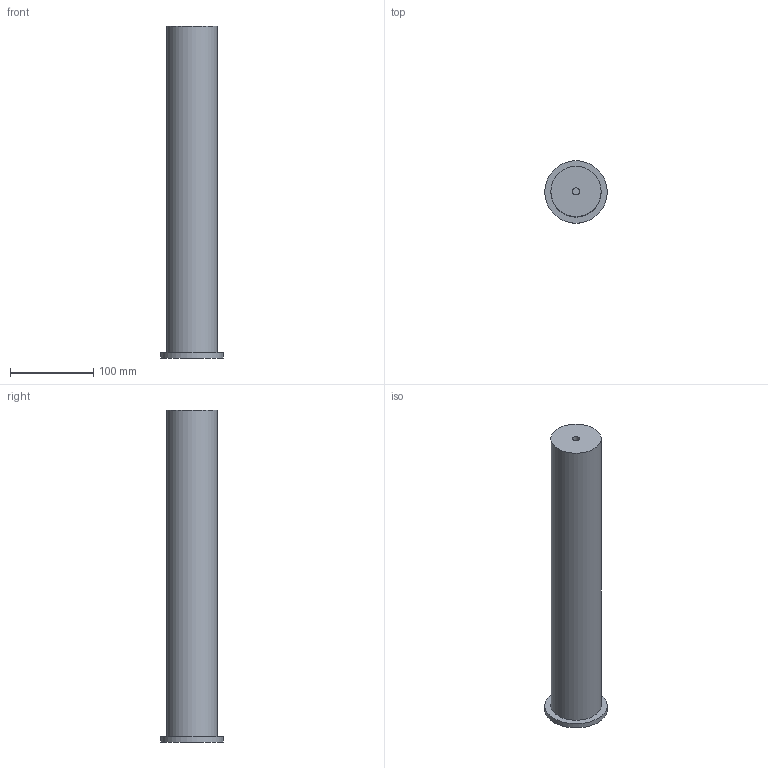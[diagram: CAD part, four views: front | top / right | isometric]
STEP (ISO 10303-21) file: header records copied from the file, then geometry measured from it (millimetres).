
FILE_DESCRIPTION(('Open CASCADE Model'),'2;1');
FILE_NAME('Open CASCADE Shape Model','2026-09-07T11:14:14',('Author'),( 'Open CASCADE'),'Open CASCADE STEP processor 7.9','Open CASCADE 7.9' ,'Unknown');
FILE_SCHEMA(('AUTOMOTIVE_DESIGN { 1 0 10303 214 1 1 1 1 }'));
Length unit declared in the file: millimetre
Products named in the file (1): Open CASCADE STEP translator 7.9 21
Bounding box: 75 x 75 x 398 mm (x, y, z)
Volume: 264885.6 mm3; surface area: 154482.2 mm2
Topology: 1 solids, 1 shells, 9 faces, 12 edges, 8 vertices
Faces by surface type: plane 5, cylinder 4
Full cylindrical faces by diameter (mm): 8.4 x1, 53.9 x1, 60.3 x1, 75 x1
Entity records: 366 total; most frequent: CARTESIAN_POINT 66, DIRECTION 62, ORIENTED_EDGE 24, PCURVE 24, DEFINITIONAL_REPRESENTATION 24, LINE 20, VECTOR 20, AXIS2_PLACEMENT_3D 18
